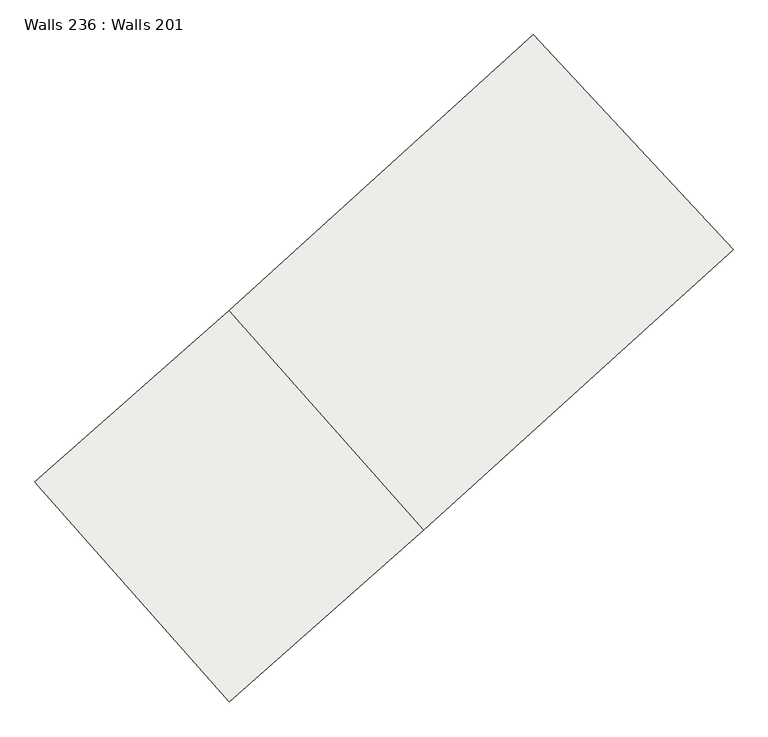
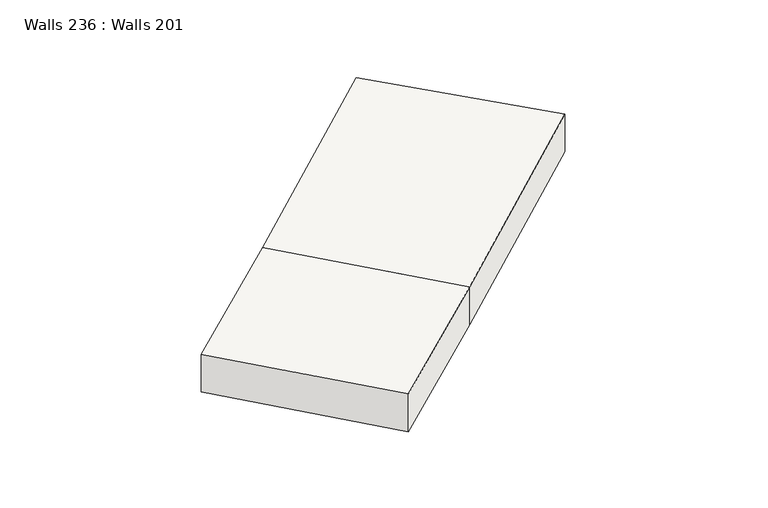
"""IFC4 building model written with IfcOpenShell, lengths in millimetres: slab geometry, Walls 236 : Walls 201."""

from ifc_helpers import new_model, si_unit, frame, origin, place, context, project, spatial, source, transform, mapped, element, save
from ifc_brep_helpers import plane_surface, spline_curve, spline_surface, advanced_brep


def walls_236_walls_201_aeb443e7(model_context):
    return source(origin(), model_context, "Body", "AdvancedBrep", [
        advanced_brep(
        [(370233.5239047, 240617.591722, 645265.0), (372820.2026553, 237833.9322729, 645265.0), (372820.2026553, 237833.9322729, 644465.0), (370233.5239047, 240617.591722, 644465.0), (366294.0768169, 237046.7560264, 645196.0), (368810.0128559, 234200.5624822, 645196.0), (366294.0768169, 237046.7560264, 644396.0), (368810.0128559, 234200.5624822, 644396.0), (363774.2023627, 234819.6166838, 645152.0), (363774.2023627, 234819.6166838, 644352.0), (366290.9444597, 231972.5112735, 644352.0), (366290.9444597, 231972.5112735, 645152.0)],
        [
            (0, 1),
            (1, 2),
            (2, 3),
            (3, 0),
            (0, 4, spline_curve(3, [(370233.5239047, 240617.591722, 645265.0), (368935.232464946, 239411.059170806, 645242.000000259), (367621.948295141, 238220.658087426, 645218.999999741), (366294.0768169, 237046.7560264, 645196.0)], [4, 4], [0.0, 17.600841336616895])),
            (4, 5, spline_curve(3, [(366294.0768169, 237046.7560264, 645196.0), (367132.722163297, 236098.024845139, 645196.0), (367971.367509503, 235149.293663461, 645196.0), (368810.0128559, 234200.5624822, 645196.0)], [4, 4], [0.0, 12.46512320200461])),
            (5, 1, spline_curve(3, [(368810.0128559, 234200.5624822, 645196.0), (370161.719393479, 235395.011941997, 645218.999999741), (371498.586948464, 236606.259809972, 645242.000000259), (372820.2026553, 237833.9322729, 645265.0)], [4, 4], [0.0, 17.600841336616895])),
            (3, 6, spline_curve(3, [(370233.5239047, 240617.591722, 644465.0), (368935.232465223, 239411.059171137, 644441.999999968), (367621.948294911, 238220.658087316, 644419.000000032), (366294.0768169, 237046.7560264, 644396.0)], [4, 4], [0.0, 17.445975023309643])),
            (6, 4, spline_curve(3, [(366294.0768169, 237046.7560264, 644396.0), (366294.0768169, 237046.7560264, 644662.666666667), (366294.0768169, 237046.7560264, 644929.333333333), (366294.0768169, 237046.7560264, 645196.0)], [4, 4], [0.0, 2.6246719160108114])),
            (2, 7, spline_curve(3, [(372820.2026553, 237833.9322729, 644465.0), (371498.586948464, 236606.259809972, 644442.000000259), (370161.719393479, 235395.011941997, 644418.999999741), (368810.0128559, 234200.5624822, 644396.0)], [4, 4], [0.0, 17.600841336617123])),
            (7, 6, spline_curve(3, [(368810.0128559, 234200.5624822, 644396.0), (367971.367509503, 235149.293663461, 644396.0), (367132.722163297, 236098.024845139, 644396.0), (366294.0768169, 237046.7560264, 644396.0)], [4, 4], [0.0, 12.465123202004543])),
            (5, 7, spline_curve(3, [(368810.0128559, 234200.5624822, 645196.0), (368810.0128559, 234200.5624822, 644929.333333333), (368810.0128559, 234200.5624822, 644662.666666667), (368810.0128559, 234200.5624822, 644396.0)], [4, 4], [0.0, 2.6246719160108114])),
            (8, 9),
            (9, 10),
            (10, 11),
            (11, 8),
            (11, 5),
            (4, 8),
            (6, 9),
            (7, 10),
        ],
        [
            plane_surface(frame((371526.86328, 239225.7619975, 644865.0), z_axis=(0.7325504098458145, 0.6807127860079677, 0.0), x_axis=(0.0, 0.0, -1.0))),
            spline_surface(3, 3, [[(372820.2026553, 237833.9322729, 645265.0), (371498.586948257, 236606.259809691, 645242.0), (370161.719393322, 235395.011941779, 645219.0), (368810.0128559, 234200.5624822, 645196.0)], [(371957.976405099, 238761.818755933, 645265.0), (370644.135453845, 237541.192930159, 645242.0), (369315.129027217, 236336.893990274, 645219.0), (367971.36750956, 235149.293663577, 645196.0)], [(371095.750154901, 239689.705238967, 645265.0), (369789.683959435, 238476.126050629, 645242.0), (368468.53866113, 237278.776038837, 645219.0), (367132.72216324, 236098.024845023, 645196.0)], [(370233.5239047, 240617.591722, 645265.0), (368935.232465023, 239411.059171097, 645242.0), (367621.948295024, 238220.658087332, 645219.0), (366294.0768169, 237046.7560264, 645196.0)]], [4, 4], [4, 4], [0.0, 12.46512320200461], [0.0, 17.600841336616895]),
            spline_surface(3, 3, [[(370233.5239047, 240617.591722, 645265.0), (368935.232465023, 239411.059171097, 645242.0), (367621.948295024, 238220.658087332, 645219.0), (366294.0768169, 237046.7560264, 645196.0)], [(370233.5239047, 240617.591722, 644998.333333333), (368935.232465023, 239411.059171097, 644975.333333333), (367621.948295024, 238220.658087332, 644952.333333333), (366294.0768169, 237046.7560264, 644929.333333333)], [(370233.5239047, 240617.591722, 644731.666666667), (368935.232465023, 239411.059171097, 644708.666666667), (367621.948295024, 238220.658087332, 644685.666666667), (366294.0768169, 237046.7560264, 644662.666666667)], [(370233.5239047, 240617.591722, 644465.0), (368935.232465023, 239411.059171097, 644442.0), (367621.948295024, 238220.658087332, 644419.0), (366294.0768169, 237046.7560264, 644396.0)]], [4, 4], [4, 4], [0.0, 2.6246719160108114], [0.0, 17.445975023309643]),
            spline_surface(3, 3, [[(370233.5239047, 240617.591722, 644465.0), (368935.232465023, 239411.059171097, 644442.0), (367621.948295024, 238220.658087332, 644419.0), (366294.0768169, 237046.7560264, 644396.0)], [(371095.750154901, 239689.705238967, 644465.0), (369789.683959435, 238476.126050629, 644442.0), (368468.53866113, 237278.776038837, 644419.0), (367132.72216324, 236098.024845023, 644396.0)], [(371957.976405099, 238761.818755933, 644465.0), (370644.135453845, 237541.192930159, 644442.0), (369315.129027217, 236336.893990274, 644419.0), (367971.36750956, 235149.293663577, 644396.0)], [(372820.2026553, 237833.9322729, 644465.0), (371498.586948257, 236606.259809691, 644442.0), (370161.719393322, 235395.011941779, 644419.0), (368810.0128559, 234200.5624822, 644396.0)]], [4, 4], [4, 4], [0.0, 12.465123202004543], [0.0, 17.600841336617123]),
            spline_surface(3, 3, [[(372820.2026553, 237833.9322729, 644465.0), (371498.586948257, 236606.259809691, 644442.0), (370161.719393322, 235395.011941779, 644419.0), (368810.0128559, 234200.5624822, 644396.0)], [(372820.2026553, 237833.9322729, 644731.666666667), (371498.586948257, 236606.259809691, 644708.666666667), (370161.719393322, 235395.011941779, 644685.666666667), (368810.0128559, 234200.5624822, 644662.666666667)], [(372820.2026553, 237833.9322729, 644998.333333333), (371498.586948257, 236606.259809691, 644975.333333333), (370161.719393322, 235395.011941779, 644952.333333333), (368810.0128559, 234200.5624822, 644929.333333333)], [(372820.2026553, 237833.9322729, 645265.0), (371498.586948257, 236606.259809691, 645242.0), (370161.719393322, 235395.011941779, 645219.0), (368810.0128559, 234200.5624822, 645196.0)]], [4, 4], [4, 4], [0.0, 2.6246719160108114], [0.0, 17.755708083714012]),
            plane_surface(frame((365032.5734112, 233396.0639786, 644752.0), z_axis=(-0.7492382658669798, -0.6623005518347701, 0.0), x_axis=(0.0, 0.0, -1.0))),
            plane_surface(frame((367552.0448364, 235623.6592543, 645196.0), z_axis=(-0.009801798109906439, -0.008664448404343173, 0.9999144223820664), x_axis=(-0.6623005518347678, 0.749238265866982, 0.0))),
            plane_surface(frame((366294.0768169, 237046.7560264, 644796.0), z_axis=(-0.6622434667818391, 0.7492887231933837, 0.0), x_axis=(0.0, 0.0, -1.0))),
            plane_surface(frame((367552.0448364, 235623.6592543, 644396.0), z_axis=(0.009801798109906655, 0.008664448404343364, -0.9999144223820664), x_axis=(0.6623005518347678, -0.749238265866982, 0.0))),
            plane_surface(frame((368810.0128559, 234200.5624822, 644796.0), z_axis=(0.6625145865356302, -0.7490490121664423, 0.0), x_axis=(0.0, 0.0, 1.0))),
        ],
        [
            (0, [[1, 2, 3, 4]]),
            (1, [[-1, 5, 6, 7]]),
            (2, [[-4, 8, 9, -5]]),
            (3, [[-3, 10, 11, -8]]),
            (4, [[-2, -7, 12, -10]]),
            (5, [[13, 14, 15, 16]]),
            (6, [[-16, 17, -6, 18]]),
            (7, [[-13, -18, -9, 19]]),
            (8, [[-14, -19, -11, 20]]),
            (9, [[-15, -20, -12, -17]]),
        ],
    ),
    ])


if __name__ == "__main__":
    model = new_model("IFC4")
    model_context = context("Model", 3, world=origin())
    ifc_project = project(units=[si_unit("LENGTHUNIT", "METRE", prefix="MILLI")], contexts=[model_context])
    site = spatial("IfcSite", under=ifc_project)
    building = spatial("IfcBuilding", under=site)
    placement = place(None, origin())
    walls_236_walls_201_shape = walls_236_walls_201_aeb443e7(model_context)
    element("IfcSlab", 1, ObjectType="Walls 236 : Walls 201", at=placement, inside=building, context=model_context, shape_type="MappedRepresentation", body=[
        mapped(walls_236_walls_201_shape, transform((0.0, 0.0, 0.0), x_axis=(1.0, 0.0, 0.0), y_axis=(0.0, 1.0, 0.0), z_axis=(0.0, 0.0, 1.0))),
    ])
    save(model, "model.ifc")
